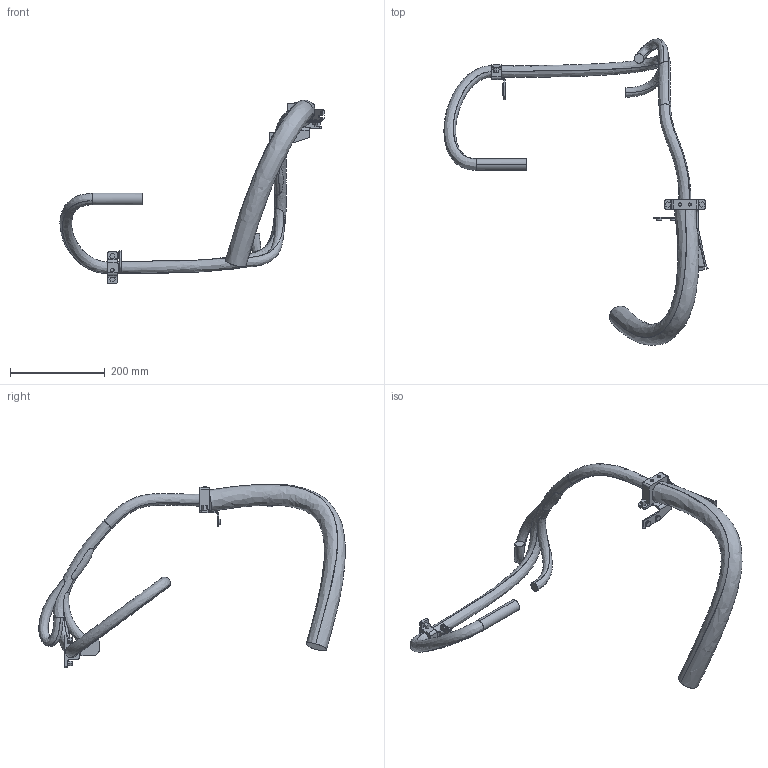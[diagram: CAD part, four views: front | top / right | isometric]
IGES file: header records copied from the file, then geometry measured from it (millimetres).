
Start section: SolidWorks IGES file using analytic representation for surfaces
Global section: file name: C:\Users\SEALDUN\OneDrive - ABB\Documents\R&D Robotics\Work Items\WI 632927 light weight hole removal\5710_Lightweight_AllFormats\IGES\IRB5710_90kg-270_OC_03_IGES_J\IRB5710_90kg-270_OmniCore_rev00_LINK03m_CABLE.igs; native system: SolidWorks 2024; preprocessor: SolidWorks 2024; author: SEALDUN; date: 250709.173702; units: millimetre
Bounding box: 557.77 x 647.11 x 387.53 mm (x, y, z)
Surface area: 237209.6 mm2 (no closed solid volume)
Topology: 0 solids, 0 shells, 254 faces, 3682 edges, 3682 vertices
Faces by surface type: bspline 151, revolution 103
